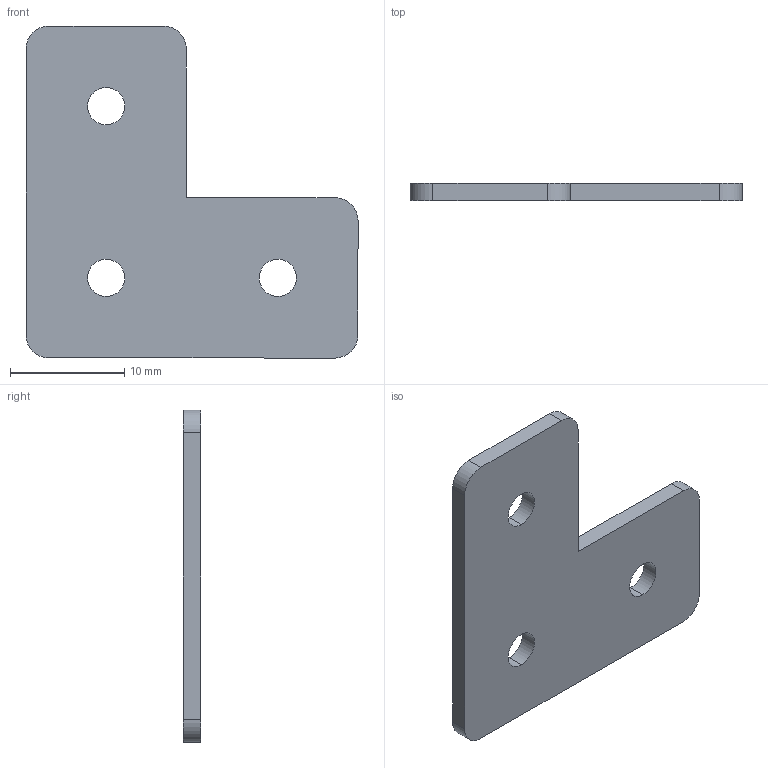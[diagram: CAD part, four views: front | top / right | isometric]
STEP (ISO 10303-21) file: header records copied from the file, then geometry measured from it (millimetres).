
FILE_DESCRIPTION (( 'STEP AP214' ), '1' );
FILE_NAME ('SNSD.15.00.01 Ã-ñîåäåíèòåëü_30õ30B(S105).STEP', '2015-06-24T08:20:13', ( 'user' ), ( '' ), 'SwSTEP 2.0', 'SolidWorks 2014', '' );
FILE_SCHEMA (( 'AUTOMOTIVE_DESIGN' ));
Length unit declared in the file: millimetre
Products named in the file (2): SNSD.15.00.01 Ã-ñîåäåíèòåëü_30õ30B(S105)
Bounding box: 29 x 1.5 x 29 mm (x, y, z)
Volume: 880.2 mm3; surface area: 1387.1 mm2
Topology: 1 solids, 1 shells, 19 faces, 51 edges, 34 vertices
Faces by surface type: cylinder 11, plane 8
Entity records: 668 total; most frequent: DIRECTION 115, CARTESIAN_POINT 106, ORIENTED_EDGE 102, EDGE_CURVE 51, AXIS2_PLACEMENT_3D 43, VERTEX_POINT 34, VECTOR 29, LINE 29
